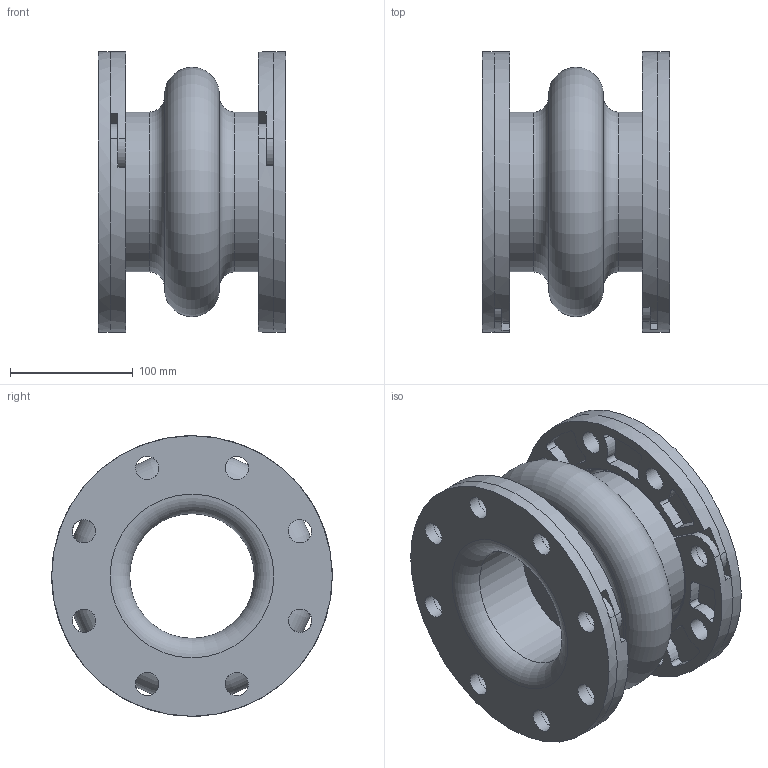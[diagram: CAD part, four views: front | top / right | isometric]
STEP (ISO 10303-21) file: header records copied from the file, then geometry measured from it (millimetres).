
FILE_DESCRIPTION(/* description */ (''),/* implementation_level */ '2;1');
FILE_NAME(/* name */ 'C:\001_Work\Designs\Mercer2014\MQInventor2014\RajR\500 Style\501\New folder\501 4IDx6FF.stp',/* time_stamp */ '2016-03-26T14:34:50-04:00',/* author */ ('rramoutar'),/* organization */ ('Mason Industries Inc.'),/* preprocessor_version */ 'ST-DEVELOPER v15.6',/* originating_system */ 'Autodesk Inventor 2015',/* authorisation */ '');
FILE_SCHEMA (('CONFIG_CONTROL_DESIGN'));
Length unit declared in the file: inch
Products named in the file (1): 501 4IDx6FF
Bounding box: 152.4 x 228.6 x 228.6 mm (x, y, z)
Volume: 2124979.8 mm3; surface area: 364028.3 mm2
Topology: 1 solids, 1 shells, 306 faces, 778 edges, 492 vertices
Faces by surface type: cylinder 186, plane 100, torus 16, cone 4
Full cylindrical faces by diameter (mm): 19.05 x36, 101.6 x2, 130.175 x2, 228.6 x2
Entity records: 9378 total; most frequent: DIRECTION 1746, CARTESIAN_POINT 1643, ORIENTED_EDGE 1380, AXIS2_PLACEMENT_3D 761, EDGE_CURVE 690, VERTEX_POINT 458, CIRCLE 454, EDGE_LOOP 412
